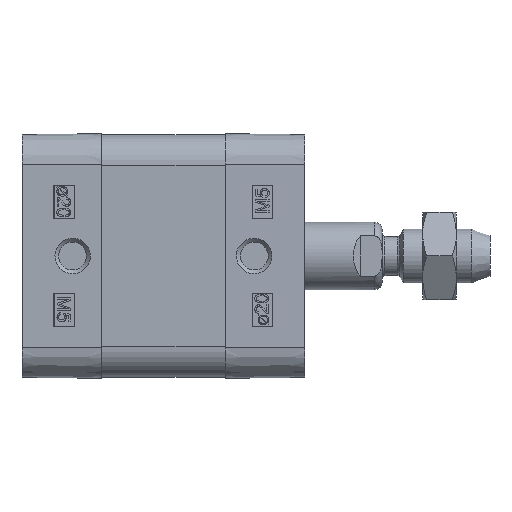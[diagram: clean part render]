
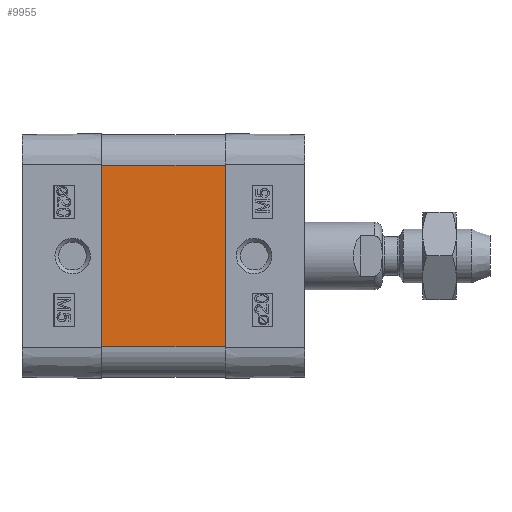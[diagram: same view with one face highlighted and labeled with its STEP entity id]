
A CAD part, left-side view. The second image highlights one B-rep face of the part: STEP entity #9955.
In plain terms, the highlighted planar face has unit normal (-1, 0, 0).
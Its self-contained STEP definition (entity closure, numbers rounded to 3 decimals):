
#957=LINE('',#17835,#1803);
#985=LINE('',#17948,#1831);
#1067=LINE('',#18168,#1913);
#1068=LINE('',#18170,#1914);
#1803=VECTOR('',#15115,1000.);
#1831=VECTOR('',#15201,1000.);
#1913=VECTOR('',#15447,1000.);
#1914=VECTOR('',#15450,1000.);
#3016=ORIENTED_EDGE('',*,*,#5612,.T.);
#3017=ORIENTED_EDGE('',*,*,#5778,.T.);
#3018=ORIENTED_EDGE('',*,*,#5779,.T.);
#3019=ORIENTED_EDGE('',*,*,#5668,.F.);
#5612=EDGE_CURVE('',#7053,#7054,#957,.T.);
#5668=EDGE_CURVE('',#7053,#7109,#985,.T.);
#5778=EDGE_CURVE('',#7054,#7164,#1067,.T.);
#5779=EDGE_CURVE('',#7164,#7109,#1068,.T.);
#7053=VERTEX_POINT('',#17836);
#7054=VERTEX_POINT('',#17837);
#7109=VERTEX_POINT('',#17949);
#7164=VERTEX_POINT('',#18167);
#8142=EDGE_LOOP('',(#3016,#3017,#3018,#3019));
#8908=FACE_BOUND('',#8142,.T.);
#9621=PLANE('',#14265);
#9955=ADVANCED_FACE('',(#8908),#9621,.T.);
#14265=AXIS2_PLACEMENT_3D('',#18169,#15448,#15449);
#15115=DIRECTION('',(0.,0.,-1.));
#15201=DIRECTION('',(0.,-1.,0.));
#15447=DIRECTION('',(0.,-1.,0.));
#15448=DIRECTION('',(-1.,0.,0.));
#15449=DIRECTION('',(0.,0.,1.));
#15450=DIRECTION('',(0.,0.,1.));
#17835=CARTESIAN_POINT('',(-18.,9.25,13.5));
#17836=CARTESIAN_POINT('',(-18.,9.25,13.5));
#17837=CARTESIAN_POINT('',(-18.,9.25,-13.5));
#17948=CARTESIAN_POINT('',(-18.,0.,13.5));
#17949=CARTESIAN_POINT('',(-18.,-9.15,13.5));
#18167=CARTESIAN_POINT('',(-18.,-9.15,-13.5));
#18168=CARTESIAN_POINT('',(-18.,0.,-13.5));
#18169=CARTESIAN_POINT('',(-18.,0.,13.5));
#18170=CARTESIAN_POINT('',(-18.,-9.15,13.5));
